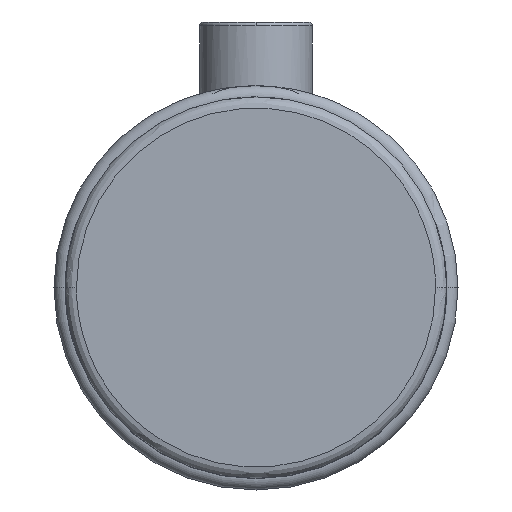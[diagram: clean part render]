
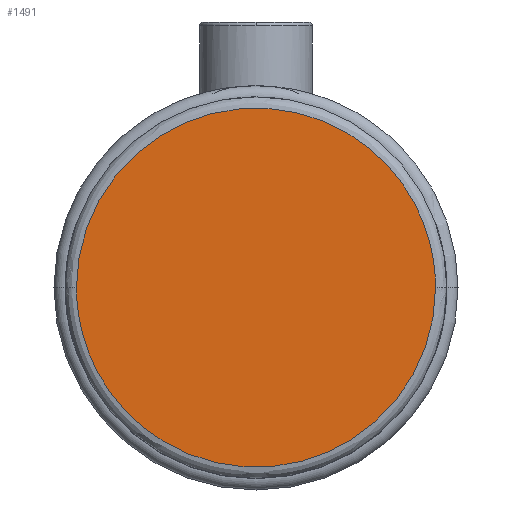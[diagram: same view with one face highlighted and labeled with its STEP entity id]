
A CAD part, top view. The second image highlights one B-rep face of the part: STEP entity #1491.
In plain terms, the highlighted planar face has unit normal (0, 0, 1).
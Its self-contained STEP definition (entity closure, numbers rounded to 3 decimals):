
#105 = CARTESIAN_POINT ( 'NONE',  ( 47.8, 95.6, 50. ) ) ;
#1228 = EDGE_CURVE ( 'NONE', #8246, #5423, #5015, .T. ) ;
#1416 = CARTESIAN_POINT ( 'NONE',  ( -47.8, 0., 50. ) ) ;
#1491 = ADVANCED_FACE ( 'NONE', ( #5397 ), #3453, .T. ) ;
#1635 = CARTESIAN_POINT ( 'NONE',  ( 47.8, 0., 50. ) ) ;
#1805 = CARTESIAN_POINT ( 'NONE',  ( -47.8, 0., 50. ) ) ;
#2382 = AXIS2_PLACEMENT_3D ( 'NONE', #11551, #11506, #5472 ) ;
#3102 = EDGE_CURVE ( 'NONE', #5423, #8246, #6448, .T. ) ;
#3453 = PLANE ( 'NONE',  #2382 ) ;
#4138 = EDGE_LOOP ( 'NONE', ( #6677, #7593 ) ) ;
#4747 = CARTESIAN_POINT ( 'NONE',  ( 47.8, 0., 50. ) ) ;
#5015 =( BOUNDED_CURVE ( )  B_SPLINE_CURVE ( 3, ( #10216, #5181, #105, #12193 ),
 .UNSPECIFIED., .F., .T. ) 
 B_SPLINE_CURVE_WITH_KNOTS ( ( 4, 4 ),
 ( 0.75, 1.25 ),
 .UNSPECIFIED. ) 
 CURVE ( )  GEOMETRIC_REPRESENTATION_ITEM ( )  RATIONAL_B_SPLINE_CURVE ( ( 1., 0.333, 0.333, 1. ) ) 
 REPRESENTATION_ITEM ( '' )  );
#5181 = CARTESIAN_POINT ( 'NONE',  ( -47.8, 95.6, 50. ) ) ;
#5397 = FACE_OUTER_BOUND ( 'NONE', #4138, .T. ) ;
#5423 = VERTEX_POINT ( 'NONE', #1635 ) ;
#5472 = DIRECTION ( 'NONE',  ( 0., -1., 0. ) ) ;
#6448 =( BOUNDED_CURVE ( )  B_SPLINE_CURVE ( 3, ( #4747, #6840, #7847, #1805 ),
 .UNSPECIFIED., .F., .F. ) 
 B_SPLINE_CURVE_WITH_KNOTS ( ( 4, 4 ),
 ( 0.25, 0.75 ),
 .UNSPECIFIED. ) 
 CURVE ( )  GEOMETRIC_REPRESENTATION_ITEM ( )  RATIONAL_B_SPLINE_CURVE ( ( 1., 0.333, 0.333, 1. ) ) 
 REPRESENTATION_ITEM ( '' )  );
#6677 = ORIENTED_EDGE ( 'NONE', *, *, #3102, .F. ) ;
#6840 = CARTESIAN_POINT ( 'NONE',  ( 47.8, -95.6, 50. ) ) ;
#7593 = ORIENTED_EDGE ( 'NONE', *, *, #1228, .F. ) ;
#7847 = CARTESIAN_POINT ( 'NONE',  ( -47.8, -95.6, 50. ) ) ;
#8246 = VERTEX_POINT ( 'NONE', #1416 ) ;
#10216 = CARTESIAN_POINT ( 'NONE',  ( -47.8, 0., 50. ) ) ;
#11506 = DIRECTION ( 'NONE',  ( 0., 0., 1. ) ) ;
#11551 = CARTESIAN_POINT ( 'NONE',  ( 0., 25.4, 50. ) ) ;
#12193 = CARTESIAN_POINT ( 'NONE',  ( 47.8, 0., 50. ) ) ;
